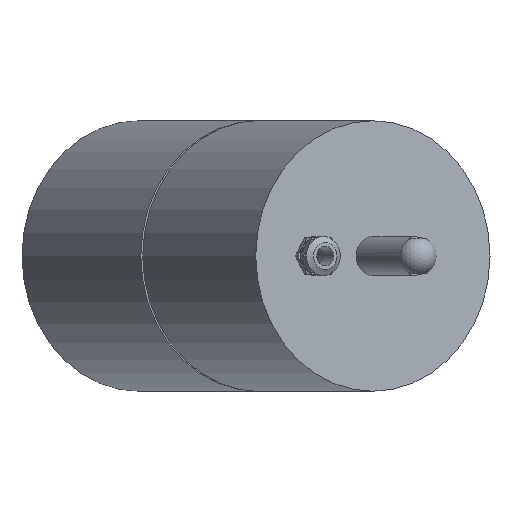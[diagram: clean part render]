
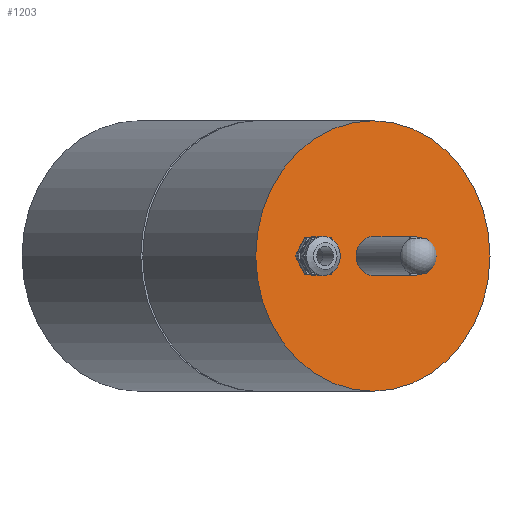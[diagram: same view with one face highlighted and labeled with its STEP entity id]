
A CAD part, front view. The second image highlights one B-rep face of the part: STEP entity #1203.
In plain terms, the highlighted planar face has unit normal (0.5, -0.866, 0).
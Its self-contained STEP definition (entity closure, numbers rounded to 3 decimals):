
#38=FACE_BOUND('',#343,.T.);
#39=FACE_BOUND('',#344,.T.);
#257=FACE_OUTER_BOUND('',#342,.T.);
#342=EDGE_LOOP('',(#819));
#343=EDGE_LOOP('',(#820));
#344=EDGE_LOOP('',(#821));
#438=CIRCLE('',#1313,5.);
#439=CIRCLE('',#1316,35.);
#440=CIRCLE('',#1317,5.);
#524=VERTEX_POINT('',#1919);
#525=VERTEX_POINT('',#1924);
#526=VERTEX_POINT('',#1926);
#637=EDGE_CURVE('',#524,#524,#438,.T.);
#638=EDGE_CURVE('',#525,#525,#439,.T.);
#639=EDGE_CURVE('',#526,#526,#440,.T.);
#819=ORIENTED_EDGE('',*,*,#638,.T.);
#820=ORIENTED_EDGE('',*,*,#637,.T.);
#821=ORIENTED_EDGE('',*,*,#639,.T.);
#1153=PLANE('',#1315);
#1203=ADVANCED_FACE('',(#257,#38,#39),#1153,.T.);
#1313=AXIS2_PLACEMENT_3D('',#1921,#1501,#1502);
#1315=AXIS2_PLACEMENT_3D('',#1923,#1505,#1506);
#1316=AXIS2_PLACEMENT_3D('',#1925,#1507,#1508);
#1317=AXIS2_PLACEMENT_3D('',#1927,#1509,#1510);
#1501=DIRECTION('center_axis',(-0.5,0.866,0.));
#1502=DIRECTION('ref_axis',(0.75,0.433,-0.5));
#1505=DIRECTION('center_axis',(0.5,-0.866,0.));
#1506=DIRECTION('ref_axis',(0.,0.,
-1.));
#1507=DIRECTION('center_axis',(0.5,-0.866,0.));
#1508=DIRECTION('ref_axis',(0.866,0.5,0.));
#1509=DIRECTION('center_axis',(-0.5,0.866,0.));
#1510=DIRECTION('ref_axis',(0.,0.,
-1.));
#1919=CARTESIAN_POINT('',(5.934,-14.307,-597.5));
#1921=CARTESIAN_POINT('Origin',(9.684,-12.142,-600.));
#1923=CARTESIAN_POINT('Origin',(9.684,-12.142,-600.));
#1924=CARTESIAN_POINT('',(-20.627,-29.642,-600.));
#1925=CARTESIAN_POINT('Origin',(9.684,-12.142,-600.));
#1926=CARTESIAN_POINT('',(-5.471,-20.892,-595.));
#1927=CARTESIAN_POINT('Origin',(-5.471,-20.892,-600.));
